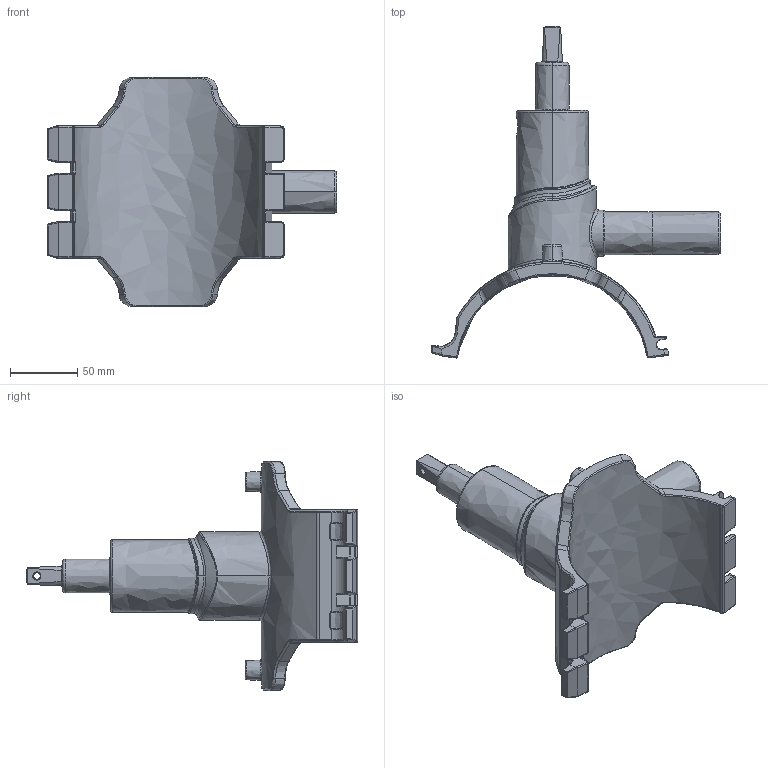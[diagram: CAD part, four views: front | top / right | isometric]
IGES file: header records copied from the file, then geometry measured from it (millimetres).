
Start section:  PTC IGES file: dav2_d140_32_01.igs
Global section: file name: dav2_d140_32_01.igs; native system: Creo Parametric by PTC Inc.; preprocessor: 2019030; author: mikulicp; organization: Unknown; date: 20210622.135725; units: millimetre
Bounding box: 214.83 x 246.31 x 170 mm (x, y, z)
Surface area: 106749.7 mm2 (no closed solid volume)
Topology: 0 solids, 0 shells, 571 faces, 2768 edges, 2762 vertices
Faces by surface type: bspline 571
